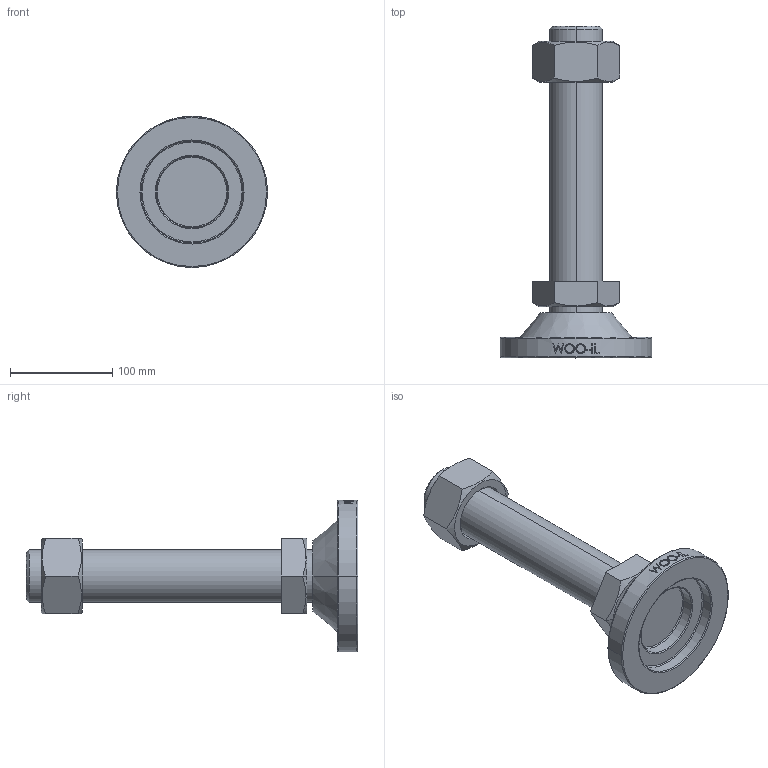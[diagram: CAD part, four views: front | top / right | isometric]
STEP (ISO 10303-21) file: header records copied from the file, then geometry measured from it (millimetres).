
FILE_DESCRIPTION (( 'STEP AP214' ), '1' );
FILE_NAME ('MFU148-M52-250.step', '2021-01-21T06:13:54', ( '' ), ( '' ), 'SwSTEP 2.0', 'SolidWorks 2019', '' );
FILE_SCHEMA (( 'AUTOMOTIVE_DESIGN' ));
Length unit declared in the file: millimetre
Products named in the file (2): MFU148-M52-250
Bounding box: 148 x 325 x 148 mm (x, y, z)
Volume: 1121592.5 mm3; surface area: 126202.8 mm2
Topology: 2 solids, 2 shells, 111 faces, 259 edges, 166 vertices
Faces by surface type: plane 49, cylinder 20, bspline 16, cone 14, torus 12
Entity records: 4805 total; most frequent: CARTESIAN_POINT 2324, ORIENTED_EDGE 518, DIRECTION 471, EDGE_CURVE 259, AXIS2_PLACEMENT_3D 185, VERTEX_POINT 166, EDGE_LOOP 127, FACE_OUTER_BOUND 111
